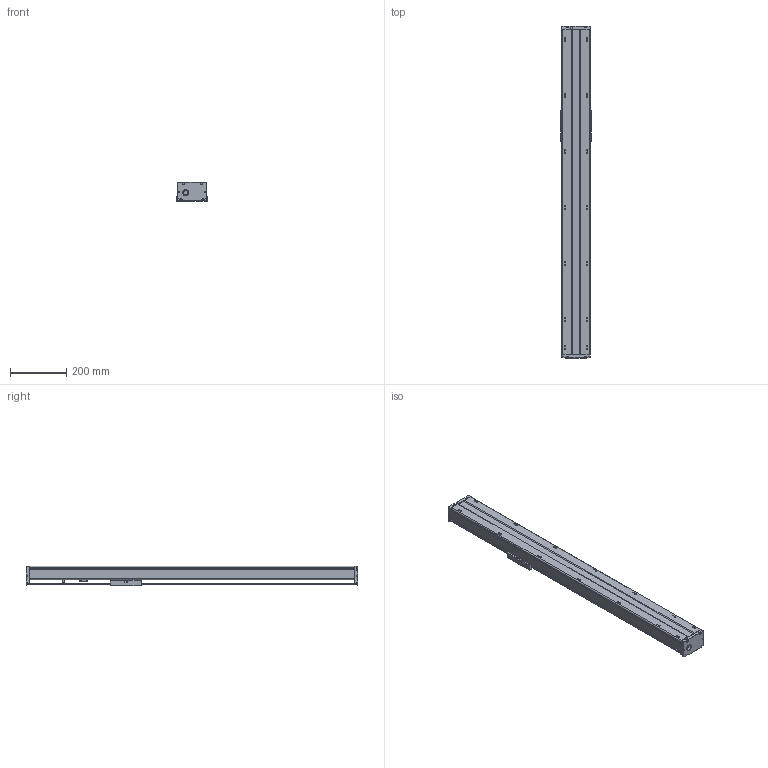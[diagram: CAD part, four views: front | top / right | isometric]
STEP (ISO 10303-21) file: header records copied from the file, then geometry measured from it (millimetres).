
FILE_DESCRIPTION(/* description */ (''),/* implementation_level */ '2;1');
FILE_NAME(/* name */ 'TKA100-800A1FI_asm1.stp',/* time_stamp */ '2017-02-21T08:59:07+08:00',/* author */ (''),/* organization */ (''),/* preprocessor_version */ 'ST-DEVELOPER v15',/* originating_system */ 'SIEMENS PLM Software NX 8.5',/* authorisation */ '');
FILE_SCHEMA (('AUTOMOTIVE_DESIGN { 1 0 10303 214 3 1 1 1 }'));
Length unit declared in the file: millimetre
Products named in the file (3): 200-02; 200-01; TKA100-800A1FI_asm1_stp
Assembly tree (2 placements, depth 2):
  TKA100-800A1FI_asm1_stp
    200-01
    200-02
Bounding box: 110 x 1184 x 71 mm (x, y, z)
Volume: 2451323.4 mm3; surface area: 798777.1 mm2
Topology: 2 solids, 9 shells, 869 faces, 2250 edges, 1427 vertices
Faces by surface type: plane 361, cylinder 297, cone 151, torus 34, bspline 26
Full cylindrical faces by diameter (mm): 2.5 x4, 2.6 x8, 3.3 x8, 3.4 x4, 3.8 x4, 4.2 x23, 4.3 x4, 4.5 x4, 5 x1, 5.5 x26, 6.6 x4, 8 x5, 9 x4, 10 x14, 11 x4, 12 x7, 15.3 x1, 16 x1, 22 x1, 24 x1, 28 x5, 30 x1
Entity records: 30828 total; most frequent: CARTESIAN_POINT 10632, DIRECTION 4196, ORIENTED_EDGE 3906, EDGE_CURVE 1953, AXIS2_PLACEMENT_3D 1626, VERTEX_POINT 1348, EDGE_LOOP 1175, LINE 944
